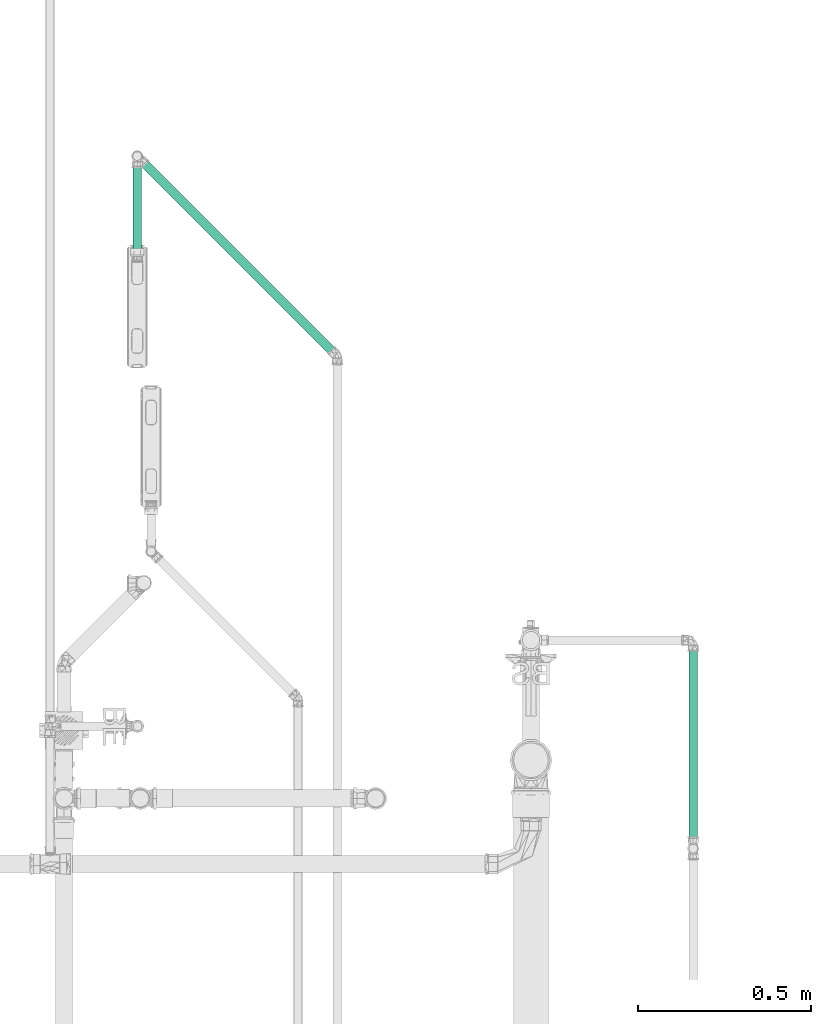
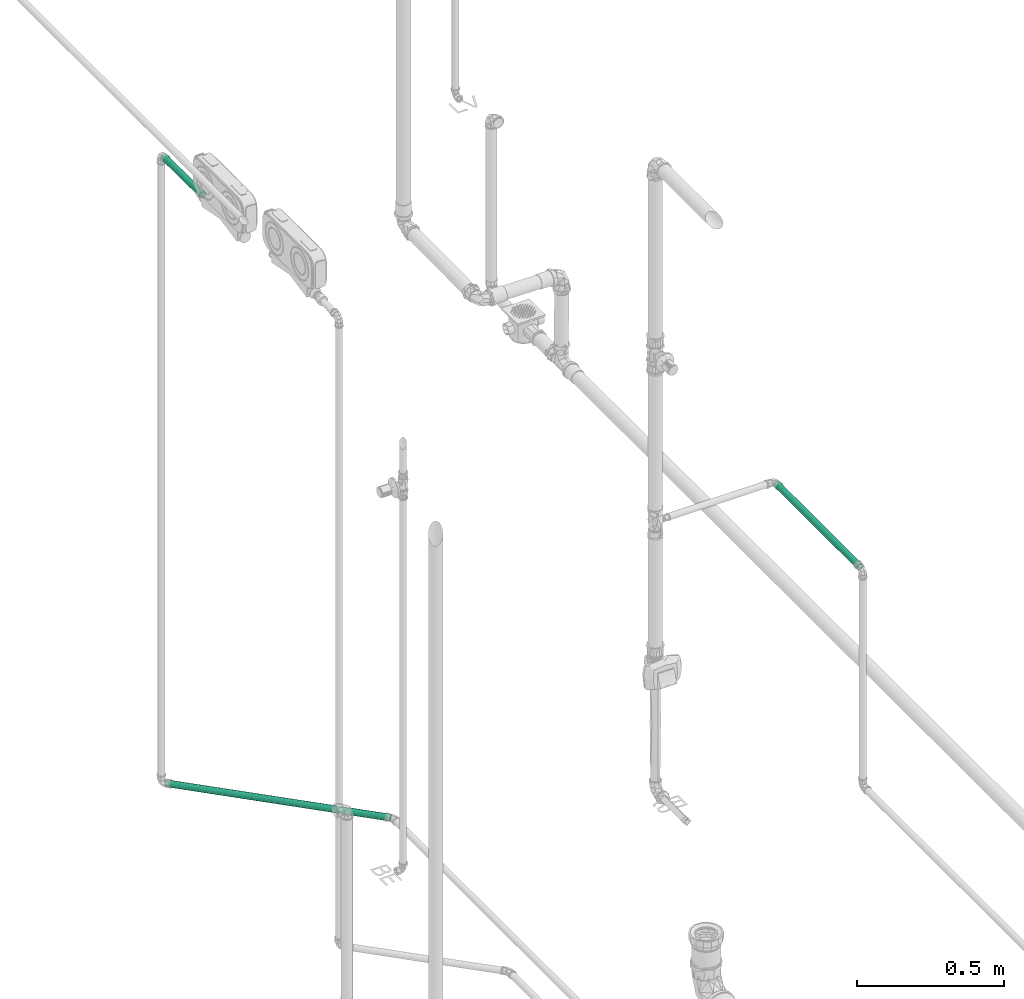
# One storey, part 162 of 589: 3 flow segments.
"""IFC2X3 building model written with IfcOpenShell, lengths in millimetres."""

from ifc_helpers import new_model, entity, si_unit, converted_unit, derived_unit, direction, frame, frame_2d, origin, place, context, subcontext, project, spatial, circle, extrude, type_object, element, save


model = new_model("IFC2X3")

# Units and contexts
model_context = context("Model", 3, precision=0.01, world=origin(), true_north=direction((6.123031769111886e-17, 1.0)))
body_context = subcontext(model_context, "Body", "Model", "MODEL_VIEW")
ifc_project = project(units=[si_unit("LENGTHUNIT", "METRE", prefix="MILLI"), si_unit("AREAUNIT", "SQUARE_METRE"), si_unit("VOLUMEUNIT", "CUBIC_METRE"), converted_unit("PLANEANGLEUNIT", "DEGREE", entity("IfcRatioMeasure", 0.017453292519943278), si_unit("PLANEANGLEUNIT", "RADIAN"), dimensions=[0, 0, 0, 0, 0, 0, 0]), si_unit("MASSUNIT", "GRAM", prefix="KILO"), derived_unit("MASSDENSITYUNIT", [(si_unit("MASSUNIT", "GRAM", prefix="KILO"), 1), (si_unit("LENGTHUNIT", "METRE"), -3)]), derived_unit("IONCONCENTRATIONUNIT", [(si_unit("MASSUNIT", "GRAM", prefix="KILO"), 1), (si_unit("LENGTHUNIT", "METRE"), -3)]), derived_unit("MOMENTOFINERTIAUNIT", [(si_unit("LENGTHUNIT", "METRE"), 4)]), si_unit("TIMEUNIT", "SECOND"), si_unit("FREQUENCYUNIT", "HERTZ"), si_unit("THERMODYNAMICTEMPERATUREUNIT", "DEGREE_CELSIUS"), derived_unit("THERMALTRANSMITTANCEUNIT", [(si_unit("MASSUNIT", "GRAM", prefix="KILO"), 1), (si_unit("THERMODYNAMICTEMPERATUREUNIT", "KELVIN"), -1), (si_unit("TIMEUNIT", "SECOND"), -3)]), derived_unit("THERMALCONDUCTANCEUNIT", [(si_unit("MASSUNIT", "GRAM", prefix="KILO"), 1), (si_unit("THERMODYNAMICTEMPERATUREUNIT", "KELVIN"), -1), (si_unit("TIMEUNIT", "SECOND"), -3), (si_unit("LENGTHUNIT", "METRE"), 1)]), derived_unit("VOLUMETRICFLOWRATEUNIT", [(si_unit("LENGTHUNIT", "METRE"), 3), (si_unit("TIMEUNIT", "SECOND"), -1)]), derived_unit("MASSFLOWRATEUNIT", [(si_unit("MASSUNIT", "GRAM", prefix="KILO"), 1), (si_unit("TIMEUNIT", "SECOND"), -1)]), derived_unit("ROTATIONALFREQUENCYUNIT", [(si_unit("TIMEUNIT", "SECOND"), -1)]), si_unit("ELECTRICCURRENTUNIT", "AMPERE"), si_unit("ELECTRICVOLTAGEUNIT", "VOLT"), si_unit("POWERUNIT", "WATT"), si_unit("FORCEUNIT", "NEWTON", prefix="KILO"), si_unit("ILLUMINANCEUNIT", "LUX"), si_unit("LUMINOUSFLUXUNIT", "LUMEN"), si_unit("LUMINOUSINTENSITYUNIT", "CANDELA"), derived_unit("USERDEFINED", [(si_unit("MASSUNIT", "GRAM", prefix="KILO"), -1), (si_unit("LENGTHUNIT", "METRE"), -2), (si_unit("TIMEUNIT", "SECOND"), 3), (si_unit("LUMINOUSFLUXUNIT", "LUMEN"), 1)]), derived_unit("USERDEFINED", [(si_unit("MASSUNIT", "GRAM", prefix="KILO"), 1), (si_unit("TIMEUNIT", "SECOND"), -3), (si_unit("LENGTHUNIT", "METRE"), 3), (si_unit("ELECTRICCURRENTUNIT", "AMPERE"), -2)]), derived_unit("SOUNDPOWERUNIT", [(si_unit("MASSUNIT", "GRAM", prefix="KILO"), 1), (si_unit("TIMEUNIT", "SECOND"), -3), (si_unit("LENGTHUNIT", "METRE"), 2)]), derived_unit("SOUNDPRESSUREUNIT", [(si_unit("MASSUNIT", "GRAM", prefix="KILO"), 1), (si_unit("LENGTHUNIT", "METRE"), -1), (si_unit("TIMEUNIT", "SECOND"), -2)]), derived_unit("LINEARVELOCITYUNIT", [(si_unit("LENGTHUNIT", "METRE"), 1), (si_unit("TIMEUNIT", "SECOND"), -1)]), si_unit("PRESSUREUNIT", "PASCAL"), derived_unit("USERDEFINED", [(si_unit("MASSUNIT", "GRAM", prefix="KILO"), 1), (si_unit("LENGTHUNIT", "METRE"), -2), (si_unit("TIMEUNIT", "SECOND"), -2)]), derived_unit("LINEARFORCEUNIT", [(si_unit("MASSUNIT", "GRAM", prefix="KILO"), 1), (si_unit("TIMEUNIT", "SECOND"), -2)]), derived_unit("PLANARFORCEUNIT", [(si_unit("MASSUNIT", "GRAM", prefix="KILO"), 1), (si_unit("LENGTHUNIT", "METRE"), -1), (si_unit("TIMEUNIT", "SECOND"), -2)]), derived_unit("SPECIFICHEATCAPACITYUNIT", [(si_unit("THERMODYNAMICTEMPERATUREUNIT", "KELVIN"), -1), (si_unit("LENGTHUNIT", "METRE"), 2), (si_unit("TIMEUNIT", "SECOND"), -2)]), derived_unit("HEATINGVALUEUNIT", [(si_unit("LENGTHUNIT", "METRE"), 2), (si_unit("TIMEUNIT", "SECOND"), -2)]), derived_unit("VAPORPERMEABILITYUNIT", [(si_unit("LENGTHUNIT", "METRE"), -1), (si_unit("TIMEUNIT", "SECOND"), 1)]), derived_unit("DYNAMICVISCOSITYUNIT", [(si_unit("MASSUNIT", "GRAM", prefix="KILO"), 1), (si_unit("TIMEUNIT", "SECOND"), -1), (si_unit("LENGTHUNIT", "METRE"), -1)]), derived_unit("THERMALEXPANSIONCOEFFICIENTUNIT", [(si_unit("THERMODYNAMICTEMPERATUREUNIT", "KELVIN"), -1)]), derived_unit("MODULUSOFELASTICITYUNIT", [(si_unit("MASSUNIT", "GRAM", prefix="KILO"), 1), (si_unit("LENGTHUNIT", "METRE"), -1), (si_unit("TIMEUNIT", "SECOND"), -2)]), derived_unit("ISOTHERMALMOISTURECAPACITYUNIT", [(si_unit("LENGTHUNIT", "METRE"), 3), (si_unit("MASSUNIT", "GRAM", prefix="KILO"), -1)]), derived_unit("MOISTUREDIFFUSIVITYUNIT", [(si_unit("TIMEUNIT", "SECOND"), -1), (si_unit("LENGTHUNIT", "METRE"), 2)])], contexts=[model_context])

# Site, building, storey
site_placement = place(None, origin())
site = spatial("IfcSite", under=ifc_project, at=site_placement, Name="Default", CompositionType="ELEMENT")
building_placement = place(site_placement, origin())
building = spatial("IfcBuilding", under=site, at=building_placement, CompositionType="ELEMENT")
storey_placement = place(building_placement, frame((0.0, 0.0, 100.0)))
storey = spatial("IfcBuildingStorey", under=building, at=storey_placement, Name="TÉRREO", CompositionType="ELEMENT", Elevation=100.0)

# Flow segments
pipe_segment_type = type_object("IfcPipeSegmentType", Name="Tipos de tubos:PVC Marrom Soldável", PredefinedType="NOTDEFINED")
flow_segment_1_placement = place(storey_placement, origin())
element("IfcFlowSegment", 1, at=flow_segment_1_placement, inside=storey, type_object=pipe_segment_type, Name="Tipos de tubos:PVC Marrom Soldável", ObjectType="Tipos de tubos:PVC Marrom Soldável", context=body_context, shape_type="SweptSolid", body=[
    extrude(circle(Radius=12.5, at=frame_2d((-1.0828671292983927e-12, 0.0), x_axis=(1.0, 0.0))), frame((9266.870885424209, -8551.428663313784, 1500.0), z_axis=(0.0, 1.0, 0.0), x_axis=(-1.0, 0.0, 0.0)), (0.0, 0.0, 1.0), 570.199999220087),
])
flow_segment_2_placement = place(storey_placement, origin())
element("IfcFlowSegment", 2, at=flow_segment_2_placement, inside=storey, type_object=pipe_segment_type, Name="Tipos de tubos:PVC Marrom Soldável", ObjectType="Tipos de tubos:PVC Marrom Soldável", context=body_context, shape_type="SweptSolid", body=[
    extrude(circle(Radius=12.5, at=frame_2d((2.9638653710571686e-24, -1.6919798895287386e-14), x_axis=(1.0, 0.0))), frame((7672.622357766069, -6579.578327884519, -37.35714509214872), z_axis=(0.707106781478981, -0.707106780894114, 0.0), x_axis=(-0.707106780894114, -0.707106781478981, 0.0)), (0.0, 0.0, 1.0), 793.4926277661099),
])
flow_segment_3_placement = place(storey_placement, origin())
element("IfcFlowSegment", 3, at=flow_segment_3_placement, inside=storey, type_object=pipe_segment_type, Name="Tipos de tubos:PVC Marrom Soldável", ObjectType="Tipos de tubos:PVC Marrom Soldável", context=body_context, shape_type="SweptSolid", body=[
    extrude(circle(Radius=12.5, at=frame_2d((1.0828671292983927e-12, 0.0), x_axis=(1.0, 0.0))), frame((7660.884395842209, -6850.365493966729, 2579.1995800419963), z_axis=(0.0, 0.9999500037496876, -0.009999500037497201), x_axis=(1.0, 0.0, 0.0)), (0.0, 0.0, 1.0), 266.0970462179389),
])

save(model, "model.ifc")
